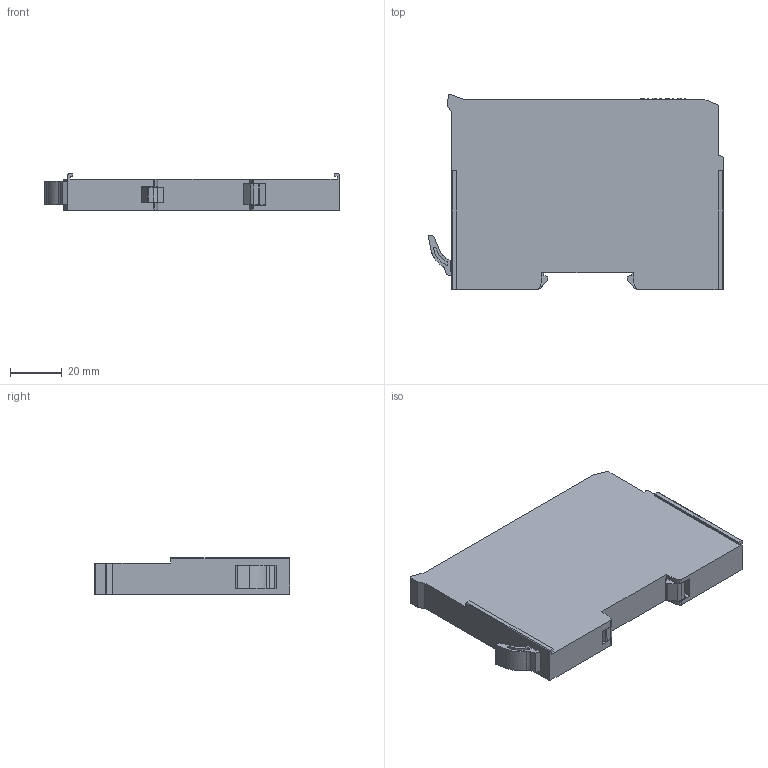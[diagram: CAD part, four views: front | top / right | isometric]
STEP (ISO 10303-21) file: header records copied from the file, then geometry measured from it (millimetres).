
FILE_DESCRIPTION(('CATIA V5 STEP Exchange','CAx-IF Rec.Pracs.--- Model Styling and Organization---1.5--- 2016-08-15','CAx-IF Rec.Pracs.---Supplemental Geometry---1.0---2011-11-01','CAx-IF Rec.Pracs.--- Composite Materials ---1.1---2010-07-15'),'2;1');
FILE_NAME('C:\Users\wcn0252\Weidmueller Interface GmbH & Co. KG\Division Support - Documents\APS\QL20\QL20-IO_Module_16P-4P.stp','2025-05-29T05:16:16+00:00',('none'),('none'),'CATIA Version 5-6 Release 2022 SP4 HF5','CATIA V5 STEP AP214 v3','none');
FILE_SCHEMA(('AUTOMOTIVE_DESIGN { 1 0 10303 214 1 1 1 1 }'));
Length unit declared in the file: millimetre
Products named in the file (1): QL20-IO_Module
Bounding box: 113.94 x 75.4 x 14 mm (x, y, z)
Volume: 89012.1 mm3; surface area: 21519.8 mm2
Topology: 1 solids, 1 shells, 303 faces, 887 edges, 593 vertices
Faces by surface type: plane 215, cylinder 87, extrusion 1
Entity records: 9926 total; most frequent: CARTESIAN_POINT 1863, ORIENTED_EDGE 1774, DIRECTION 1319, EDGE_CURVE 887, VECTOR 688, LINE 687, VERTEX_POINT 593, AXIS2_PLACEMENT_3D 393
